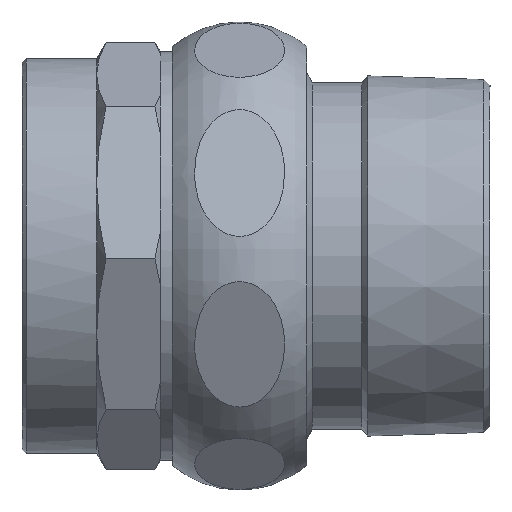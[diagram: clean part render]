
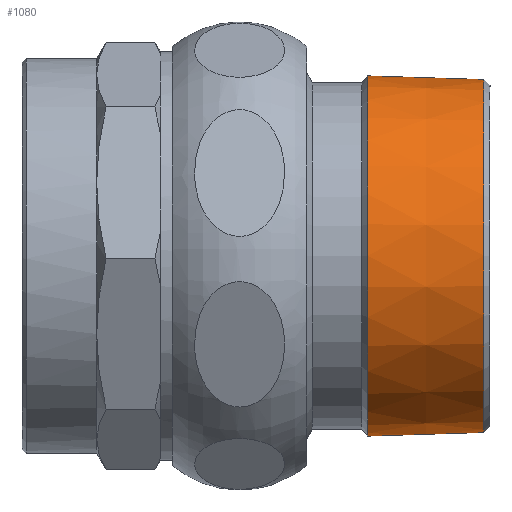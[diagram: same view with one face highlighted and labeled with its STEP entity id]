
A CAD part, top view. The second image highlights one B-rep face of the part: STEP entity #1080.
In plain terms, the highlighted conical face has half-angle 1.78 degrees and reference radius 43.791 mm.
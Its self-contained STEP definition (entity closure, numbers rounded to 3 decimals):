
#170=FACE_BOUND('',#461,.T.);
#240=CIRCLE('',#1233,44.234);
#241=CIRCLE('',#1235,43.348);
#266=CONICAL_SURFACE('',#1234,43.791,1.78);
#345=FACE_OUTER_BOUND('',#460,.T.);
#460=EDGE_LOOP('',(#955));
#461=EDGE_LOOP('',(#956));
#563=VERTEX_POINT('',#2593);
#564=VERTEX_POINT('',#2596);
#697=EDGE_CURVE('',#563,#563,#240,.T.);
#698=EDGE_CURVE('',#564,#564,#241,.T.);
#955=ORIENTED_EDGE('',*,*,#698,.F.);
#956=ORIENTED_EDGE('',*,*,#697,.T.);
#1080=ADVANCED_FACE('',(#345,#170),#266,.T.);
#1233=AXIS2_PLACEMENT_3D('',#2594,#1561,#1562);
#1234=AXIS2_PLACEMENT_3D('',#2595,#1563,#1564);
#1235=AXIS2_PLACEMENT_3D('',#2597,#1565,#1566);
#1561=DIRECTION('center_axis',(1.,0.,0.));
#1562=DIRECTION('ref_axis',(0.,1.,0.));
#1563=DIRECTION('center_axis',(-1.,0.,0.));
#1564=DIRECTION('ref_axis',(0.,1.,0.));
#1565=DIRECTION('center_axis',(1.,0.,0.));
#1566=DIRECTION('ref_axis',(0.,1.,0.));
#2593=CARTESIAN_POINT('',(3.5,44.234,0.));
#2594=CARTESIAN_POINT('Origin',(3.5,0.,0.));
#2595=CARTESIAN_POINT('Origin',(17.75,0.,0.));
#2596=CARTESIAN_POINT('',(32.,43.348,0.));
#2597=CARTESIAN_POINT('Origin',(32.,0.,0.));
